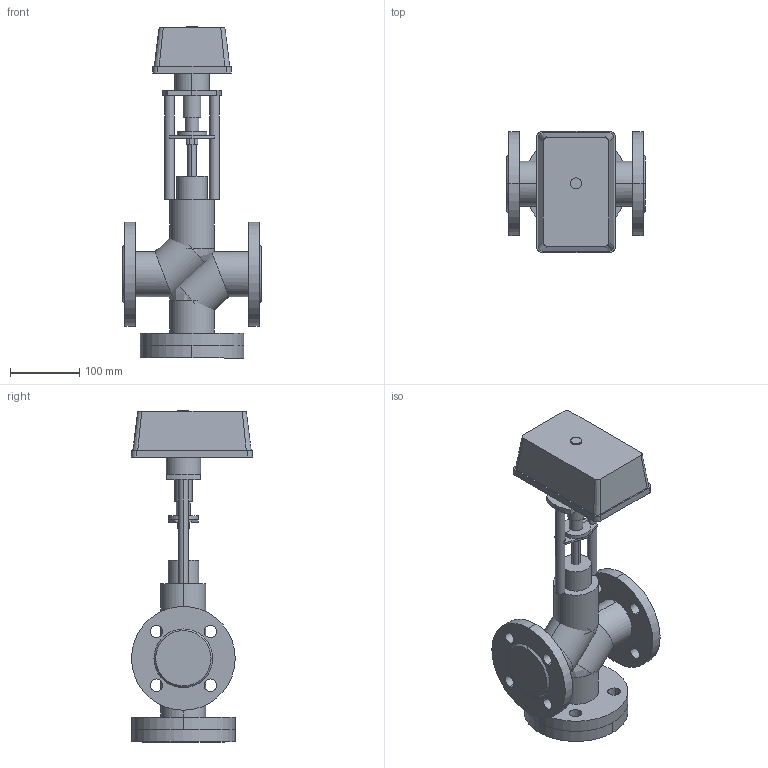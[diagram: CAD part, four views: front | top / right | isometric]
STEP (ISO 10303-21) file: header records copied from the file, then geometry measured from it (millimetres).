
FILE_DESCRIPTION(/* description */ (''),/* implementation_level */ '2;1');
FILE_NAME(/* name */ 'ТРК DN40 PN 2.5 МПа МИЭП-1 1600',/* time_stamp */ '2026-07-14T23:29:09+03:00',/* author */ (''),/* organization */ (''),/* preprocessor_version */ 'ST-DEVELOPER v20',/* originating_system */ '',/* authorisation */ '');
FILE_SCHEMA (('AP242_MANAGED_MODEL_BASED_3D_ENGINEERING_MIM_LF { 1 0 10303 442 1 1 4 }'));
Length unit declared in the file: millimetre
Products named in the file (14): TopLevelAssembly; Выдавливание; Модификатор; Модификатор_1; Выдавливание_
1; Выдавливание_
2; Вращение; Выдавливание_
3; Выдавливание_
4; 1600; Переход; Объемная геометрия 
присоединена; Полый Выдавливание; Объемная геометрия 
присоединена_1
Assembly tree (13 placements, depth 2):
  TopLevelAssembly
    Выдавливание
    Модификатор
    Модификатор_1
    Выдавливание_
1
    Выдавливание_
2
    Вращение
    Выдавливание_
3
    Выдавливание_
4
    1600
    Переход
    Объемная геометрия 
присоединена
    Полый Выдавливание
    Объемная геометрия 
присоединена_1
Bounding box: 200 x 175 x 480 mm (x, y, z)
Volume: 3783735 mm3; surface area: 475922 mm2
Topology: 23 solids, 23 shells, 171 faces, 357 edges, 226 vertices
Faces by surface type: cylinder 80, plane 79, bspline 8, cone 4
Entity records: 5215 total; most frequent: CARTESIAN_POINT 961, DIRECTION 909, ORIENTED_EDGE 698, AXIS2_PLACEMENT_3D 370, EDGE_CURVE 349, VERTEX_POINT 226, EDGE_LOOP 201, CIRCLE 172
